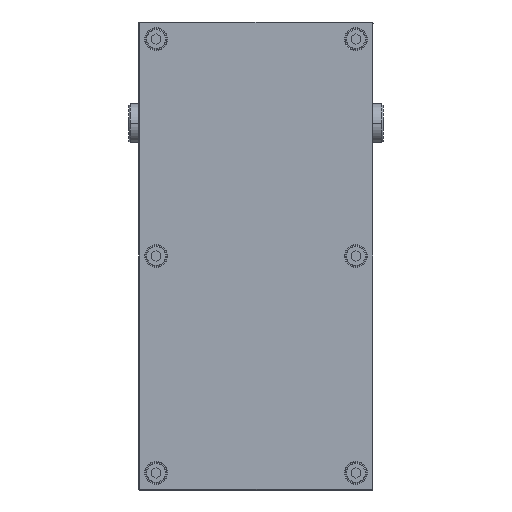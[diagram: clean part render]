
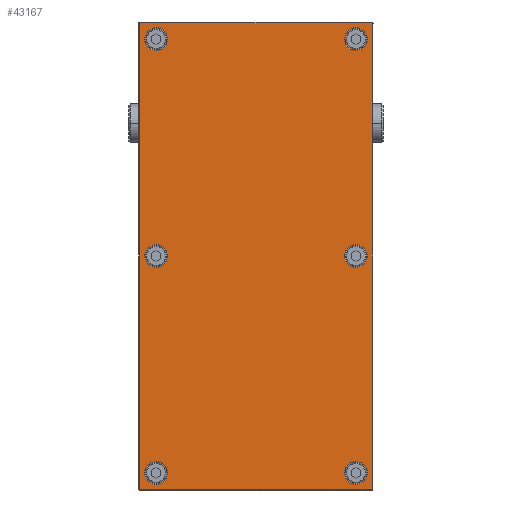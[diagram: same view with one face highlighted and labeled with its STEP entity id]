
A CAD part, front view. The second image highlights one B-rep face of the part: STEP entity #43167.
In plain terms, the highlighted planar face has unit normal (0, -1, 0).
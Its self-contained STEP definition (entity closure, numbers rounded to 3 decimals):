
#41726=CARTESIAN_POINT('',(149.,-9.,-74.));
#41727=DIRECTION('',(0.,-1.,0.));
#41728=DIRECTION('',(0.,0.,-1.));
#41729=AXIS2_PLACEMENT_3D('',#41726,#41727,#41728);
#41731=DIRECTION('',(1.,0.,0.));
#41732=VECTOR('',#41731,298.);
#41733=CARTESIAN_POINT('',(-149.,-9.,
-74.5));
#41734=LINE('',#41733,#41732);
#41735=CARTESIAN_POINT('',(-149.,-9.,-74.));
#41736=DIRECTION('',(0.,-1.,0.));
#41737=DIRECTION('',(-1.,0.,0.));
#41738=AXIS2_PLACEMENT_3D('',#41735,#41736,#41737);
#41740=DIRECTION('',(0.,0.,-1.));
#41741=VECTOR('',#41740,148.);
#41742=CARTESIAN_POINT('',(-149.5,-9.,74.));
#41743=LINE('',#41742,#41741);
#41744=CARTESIAN_POINT('',(-149.,-9.,74.));
#41745=DIRECTION('',(0.,-1.,0.));
#41746=DIRECTION('',(0.,0.,1.));
#41747=AXIS2_PLACEMENT_3D('',#41744,#41745,#41746);
#41749=DIRECTION('',(-1.,0.,0.));
#41750=VECTOR('',#41749,298.);
#41751=CARTESIAN_POINT('',(149.,-9.,
74.5));
#41752=LINE('',#41751,#41750);
#41753=CARTESIAN_POINT('',(149.,-9.,74.));
#41754=DIRECTION('',(0.,-1.,0.));
#41755=DIRECTION('',(1.,0.,0.));
#41756=AXIS2_PLACEMENT_3D('',#41753,#41754,#41755);
#41758=DIRECTION('',(0.,0.,1.));
#41759=VECTOR('',#41758,148.);
#41760=CARTESIAN_POINT('',(149.5,-9.,-74.));
#41761=LINE('',#41760,#41759);
#41762=CARTESIAN_POINT('',(-139.,-9.,-64.));
#41763=DIRECTION('',(0.,1.,0.));
#41764=DIRECTION('',(1.,0.,0.));
#41765=AXIS2_PLACEMENT_3D('',#41762,#41763,#41764);
#41767=CARTESIAN_POINT('',(-139.,-9.,-64.));
#41768=DIRECTION('',(0.,1.,0.));
#41769=DIRECTION('',(-1.,0.,0.));
#41770=AXIS2_PLACEMENT_3D('',#41767,#41768,#41769);
#41772=CARTESIAN_POINT('',(0.,-9.,-64.));
#41773=DIRECTION('',(0.,1.,0.));
#41774=DIRECTION('',(1.,0.,0.));
#41775=AXIS2_PLACEMENT_3D('',#41772,#41773,#41774);
#41777=CARTESIAN_POINT('',(0.,-9.,-64.));
#41778=DIRECTION('',(0.,1.,0.));
#41779=DIRECTION('',(-1.,0.,0.));
#41780=AXIS2_PLACEMENT_3D('',#41777,#41778,#41779);
#41782=CARTESIAN_POINT('',(139.,-9.,-64.));
#41783=DIRECTION('',(0.,1.,0.));
#41784=DIRECTION('',(1.,0.,0.));
#41785=AXIS2_PLACEMENT_3D('',#41782,#41783,#41784);
#41787=CARTESIAN_POINT('',(139.,-9.,-64.));
#41788=DIRECTION('',(0.,1.,0.));
#41789=DIRECTION('',(-1.,0.,0.));
#41790=AXIS2_PLACEMENT_3D('',#41787,#41788,#41789);
#41792=CARTESIAN_POINT('',(139.,-9.,64.));
#41793=DIRECTION('',(0.,1.,0.));
#41794=DIRECTION('',(1.,0.,0.));
#41795=AXIS2_PLACEMENT_3D('',#41792,#41793,#41794);
#41797=CARTESIAN_POINT('',(139.,-9.,64.));
#41798=DIRECTION('',(0.,1.,0.));
#41799=DIRECTION('',(-1.,0.,0.));
#41800=AXIS2_PLACEMENT_3D('',#41797,#41798,#41799);
#41802=CARTESIAN_POINT('',(0.,-9.,64.));
#41803=DIRECTION('',(0.,1.,0.));
#41804=DIRECTION('',(1.,0.,0.));
#41805=AXIS2_PLACEMENT_3D('',#41802,#41803,#41804);
#41807=CARTESIAN_POINT('',(0.,-9.,64.));
#41808=DIRECTION('',(0.,1.,0.));
#41809=DIRECTION('',(-1.,0.,0.));
#41810=AXIS2_PLACEMENT_3D('',#41807,#41808,#41809);
#41812=CARTESIAN_POINT('',(-139.,-9.,64.));
#41813=DIRECTION('',(0.,1.,0.));
#41814=DIRECTION('',(1.,0.,0.));
#41815=AXIS2_PLACEMENT_3D('',#41812,#41813,#41814);
#41817=CARTESIAN_POINT('',(-139.,-9.,64.));
#41818=DIRECTION('',(0.,1.,0.));
#41819=DIRECTION('',(-1.,0.,0.));
#41820=AXIS2_PLACEMENT_3D('',#41817,#41818,#41819);
#42896=CARTESIAN_POINT('',(149.,-9.,-74.5));
#42897=CARTESIAN_POINT('',(149.5,-9.,-74.));
#42898=VERTEX_POINT('',#42896);
#42899=VERTEX_POINT('',#42897);
#42904=CARTESIAN_POINT('',(149.5,-9.,
74.));
#42905=VERTEX_POINT('',#42904);
#42908=CARTESIAN_POINT('',(149.,-9.,74.5));
#42909=VERTEX_POINT('',#42908);
#42912=CARTESIAN_POINT('',(-149.,-9.,
74.5));
#42913=VERTEX_POINT('',#42912);
#42916=CARTESIAN_POINT('',(-149.5,-9.,74.));
#42917=VERTEX_POINT('',#42916);
#42920=CARTESIAN_POINT('',(-149.5,-9.,
-74.));
#42921=VERTEX_POINT('',#42920);
#42924=CARTESIAN_POINT('',(-149.,-9.,-74.5));
#42925=VERTEX_POINT('',#42924);
#42952=CARTESIAN_POINT('',(-131.7,-9.,-64.));
#42953=CARTESIAN_POINT('',(-146.3,-9.,-64.));
#42954=VERTEX_POINT('',#42952);
#42955=VERTEX_POINT('',#42953);
#42968=CARTESIAN_POINT('',(7.3,-9.,-64.));
#42969=CARTESIAN_POINT('',(-7.3,-9.,-64.));
#42970=VERTEX_POINT('',#42968);
#42971=VERTEX_POINT('',#42969);
#42992=CARTESIAN_POINT('',(146.3,-9.,-64.));
#42993=CARTESIAN_POINT('',(131.7,-9.,-64.));
#42994=VERTEX_POINT('',#42992);
#42995=VERTEX_POINT('',#42993);
#43008=CARTESIAN_POINT('',(146.3,-9.,64.));
#43009=CARTESIAN_POINT('',(131.7,-9.,64.));
#43010=VERTEX_POINT('',#43008);
#43011=VERTEX_POINT('',#43009);
#43016=CARTESIAN_POINT('',(7.3,-9.,64.));
#43017=CARTESIAN_POINT('',(-7.3,-9.,64.));
#43018=VERTEX_POINT('',#43016);
#43019=VERTEX_POINT('',#43017);
#43040=CARTESIAN_POINT('',(-131.7,-9.,64.));
#43041=CARTESIAN_POINT('',(-146.3,-9.,64.));
#43042=VERTEX_POINT('',#43040);
#43043=VERTEX_POINT('',#43041);
#43108=CARTESIAN_POINT('',(0.,-9.,0.));
#43109=DIRECTION('',(0.,1.,0.));
#43110=DIRECTION('',(1.,0.,0.));
#43111=AXIS2_PLACEMENT_3D('',#43108,#43109,#43110);
#43112=PLANE('',#43111);
#43114=ORIENTED_EDGE('',*,*,#43113,.F.);
#43116=ORIENTED_EDGE('',*,*,#43115,.F.);
#43118=ORIENTED_EDGE('',*,*,#43117,.F.);
#43120=ORIENTED_EDGE('',*,*,#43119,.F.);
#43122=ORIENTED_EDGE('',*,*,#43121,.F.);
#43124=ORIENTED_EDGE('',*,*,#43123,.F.);
#43126=ORIENTED_EDGE('',*,*,#43125,.F.);
#43128=ORIENTED_EDGE('',*,*,#43127,.F.);
#43129=EDGE_LOOP('',(#43114,#43116,#43118,#43120,#43122,#43124,#43126,#43128));
#43130=FACE_OUTER_BOUND('',#43129,.F.);
#43132=ORIENTED_EDGE('',*,*,#43131,.F.);
#43134=ORIENTED_EDGE('',*,*,#43133,.F.);
#43135=EDGE_LOOP('',(#43132,#43134));
#43136=FACE_BOUND('',#43135,.F.);
#43138=ORIENTED_EDGE('',*,*,#43137,.F.);
#43140=ORIENTED_EDGE('',*,*,#43139,.F.);
#43141=EDGE_LOOP('',(#43138,#43140));
#43142=FACE_BOUND('',#43141,.F.);
#43144=ORIENTED_EDGE('',*,*,#43143,.F.);
#43146=ORIENTED_EDGE('',*,*,#43145,.F.);
#43147=EDGE_LOOP('',(#43144,#43146));
#43148=FACE_BOUND('',#43147,.F.);
#43150=ORIENTED_EDGE('',*,*,#43149,.F.);
#43152=ORIENTED_EDGE('',*,*,#43151,.F.);
#43153=EDGE_LOOP('',(#43150,#43152));
#43154=FACE_BOUND('',#43153,.F.);
#43156=ORIENTED_EDGE('',*,*,#43155,.F.);
#43158=ORIENTED_EDGE('',*,*,#43157,.F.);
#43159=EDGE_LOOP('',(#43156,#43158));
#43160=FACE_BOUND('',#43159,.F.);
#43162=ORIENTED_EDGE('',*,*,#43161,.F.);
#43164=ORIENTED_EDGE('',*,*,#43163,.F.);
#43165=EDGE_LOOP('',(#43162,#43164));
#43166=FACE_BOUND('',#43165,.F.);
#43167=ADVANCED_FACE('',(#43130,#43136,#43142,#43148,#43154,#43160,#43166),
#43112,.F.);
#41730=CIRCLE('',#41729,0.5);
#41739=CIRCLE('',#41738,0.5);
#41748=CIRCLE('',#41747,0.5);
#41757=CIRCLE('',#41756,0.5);
#41766=CIRCLE('',#41765,7.3);
#41771=CIRCLE('',#41770,7.3);
#41776=CIRCLE('',#41775,7.3);
#41781=CIRCLE('',#41780,7.3);
#41786=CIRCLE('',#41785,7.3);
#41791=CIRCLE('',#41790,7.3);
#41796=CIRCLE('',#41795,7.3);
#41801=CIRCLE('',#41800,7.3);
#41806=CIRCLE('',#41805,7.3);
#41811=CIRCLE('',#41810,7.3);
#41816=CIRCLE('',#41815,7.3);
#41821=CIRCLE('',#41820,7.3);
#43113=EDGE_CURVE('',#42898,#42899,#41730,.T.);
#43115=EDGE_CURVE('',#42925,#42898,#41734,.T.);
#43117=EDGE_CURVE('',#42921,#42925,#41739,.T.);
#43119=EDGE_CURVE('',#42917,#42921,#41743,.T.);
#43121=EDGE_CURVE('',#42913,#42917,#41748,.T.);
#43123=EDGE_CURVE('',#42909,#42913,#41752,.T.);
#43125=EDGE_CURVE('',#42905,#42909,#41757,.T.);
#43127=EDGE_CURVE('',#42899,#42905,#41761,.T.);
#43131=EDGE_CURVE('',#42954,#42955,#41766,.T.);
#43133=EDGE_CURVE('',#42955,#42954,#41771,.T.);
#43137=EDGE_CURVE('',#42970,#42971,#41776,.T.);
#43139=EDGE_CURVE('',#42971,#42970,#41781,.T.);
#43143=EDGE_CURVE('',#42994,#42995,#41786,.T.);
#43145=EDGE_CURVE('',#42995,#42994,#41791,.T.);
#43149=EDGE_CURVE('',#43010,#43011,#41796,.T.);
#43151=EDGE_CURVE('',#43011,#43010,#41801,.T.);
#43155=EDGE_CURVE('',#43018,#43019,#41806,.T.);
#43157=EDGE_CURVE('',#43019,#43018,#41811,.T.);
#43161=EDGE_CURVE('',#43042,#43043,#41816,.T.);
#43163=EDGE_CURVE('',#43043,#43042,#41821,.T.);
